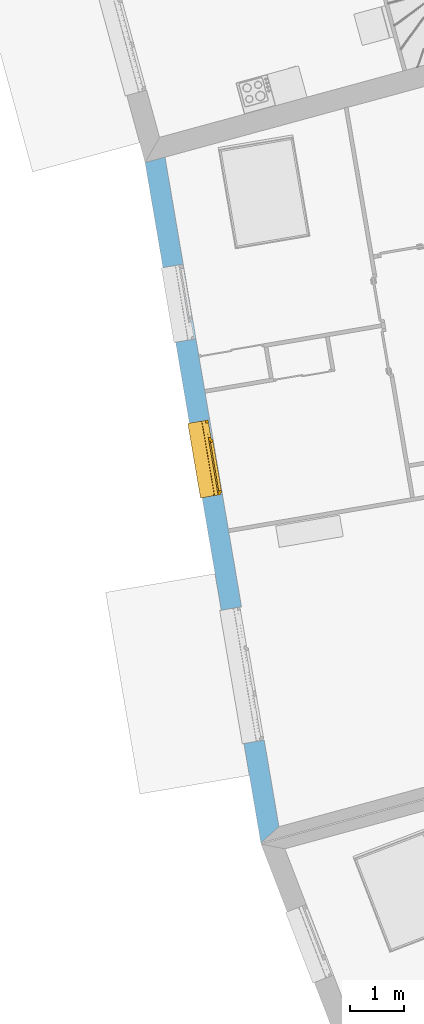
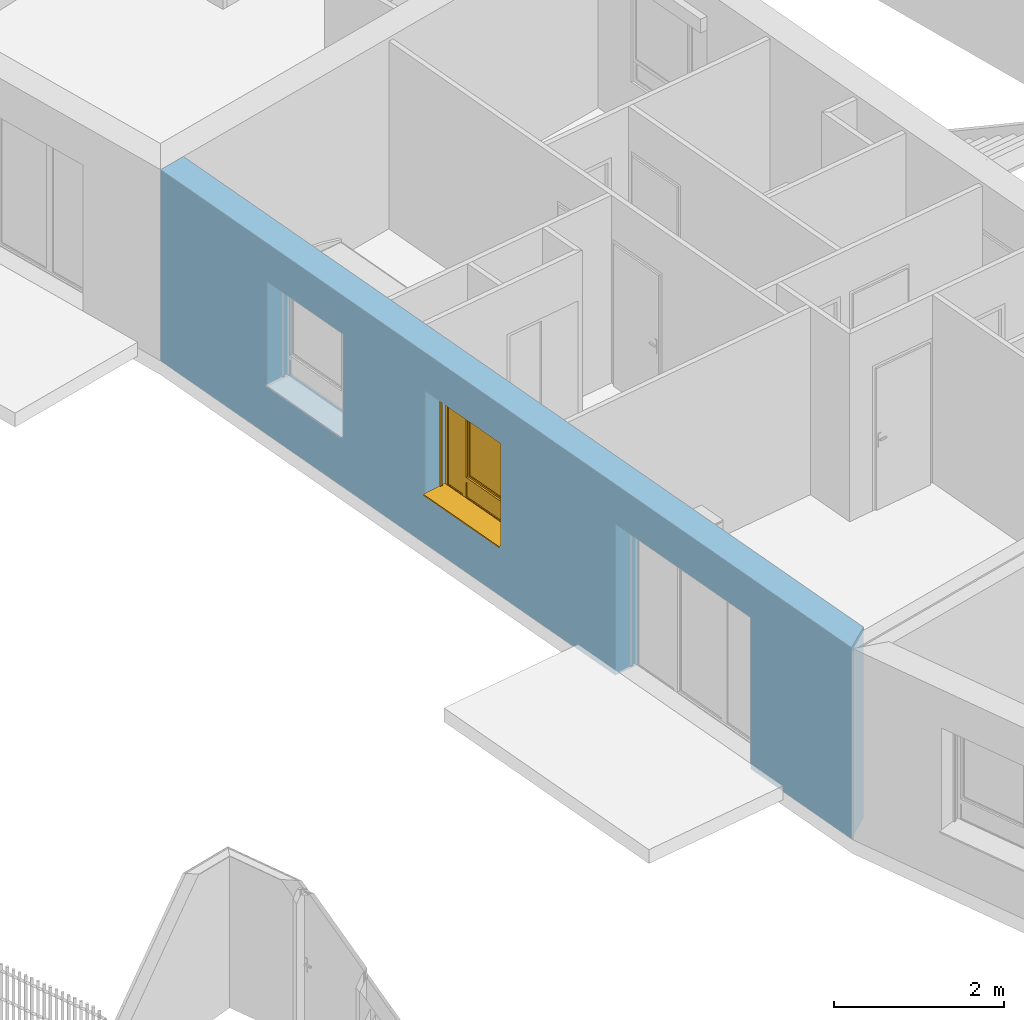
# One storey, part 86 of 195: 1 window, 3 openings, plus 1 element that does not belong to this part.
"""IFC2X3 building model written with IfcOpenShell, lengths in metres."""

import ifcopenshell
import ifcopenshell.guid

model = None  # the IFC model being written
_history = None  # IfcOwnerHistory: only IFC2X3 demands one
_inside = {}  # id of a spatial element -> (the spatial element, [elements in it])
_under = {}  # id of a project, library or spatial element -> (it, [spatial elements below it])
_declared = {}  # id of a project -> (the project, [libraries it declares])
_typed = {}  # id of a type object -> (the type object, [elements of that type])
_made_of = {}  # id of a material, layer set ... -> (it, [elements and type objects made of it])


def new_model(schema):
    """Start an empty IFC model of exactly this schema.

    Asked for "IFC4X3", IfcOpenShell would pick the latest addendum, in which some entities
    have other attributes; the version numbers below select the first issue.
    IFC2X3 requires an IfcOwnerHistory on every rooted entity: one is made here for all.
    """
    global model, _history
    if schema == "IFC4X3":
        model = ifcopenshell.file(schema_version=(4, 3, 0, 0))
    else:
        model = ifcopenshell.file(schema=schema)
    _inside.clear()
    _under.clear()
    _declared.clear()
    _typed.clear()
    _made_of.clear()
    _history = None
    if model.schema == "IFC2X3":
        org = make("IfcOrganization", Name="unknown")
        user = make(
            "IfcPersonAndOrganization",
            ThePerson=make("IfcPerson", FamilyName="unknown"),
            TheOrganization=org,
        )
        app = make(
            "IfcApplication",
            ApplicationDeveloper=org,
            Version="unknown",
            ApplicationFullName="unknown",
            ApplicationIdentifier="unknown",
        )
        _history = make(
            "IfcOwnerHistory",
            OwningUser=user,
            OwningApplication=app,
            ChangeAction="ADDED",
            CreationDate=0,
        )
    return model


def make(cls, **values):
    """One entity of the class cls with the attributes given. An attribute that is None is left unset."""
    return model.create_entity(
        cls, **{name: value for name, value in values.items() if value is not None}
    )


def entity(cls, *values):
    """Any entity or typed value of the class cls, its attributes in the order of the schema. None: left unset."""
    e = model.create_entity(cls)
    for i, value in enumerate(values):
        if value is not None:
            e[i] = value
    return e


def rooted(cls, **values):
    """An entity with a GlobalId (a new one), such as an element, a storey or a relation."""
    return make(cls, GlobalId=ifcopenshell.guid.new(), OwnerHistory=_history, **values)


def si_unit(unit_type, name, prefix=None):
    """IfcSIUnit, for example si_unit("LENGTHUNIT", "METRE", prefix="MILLI")."""
    return make("IfcSIUnit", UnitType=unit_type, Prefix=prefix, Name=name)


def converted_unit(unit_type, name, factor, base, dimensions=None, offset=None):
    """IfcConversionBasedUnit, such as the inch: factor (a typed value) times the base unit."""
    return make(
        "IfcConversionBasedUnit"
        if offset is None
        else "IfcConversionBasedUnitWithOffset",
        ConversionOffset=offset,
        Dimensions=None
        if dimensions is None
        else entity("IfcDimensionalExponents", *dimensions),
        UnitType=unit_type,
        Name=name,
        ConversionFactor=make(
            "IfcMeasureWithUnit", ValueComponent=factor, UnitComponent=base
        ),
    )


def derived_unit(unit_type, elements):
    """IfcDerivedUnit: a product of units, each with its exponent."""
    return make(
        "IfcDerivedUnit",
        Elements=[
            make("IfcDerivedUnitElement", Unit=unit, Exponent=power)
            for unit, power in elements
        ],
        UnitType=unit_type,
    )


def money_unit(currency):
    """IfcMonetaryUnit."""
    return make("IfcMonetaryUnit", Currency=currency)


def assignment(units):
    """IfcUnitAssignment: the units of a project."""
    return None if units is None else make("IfcUnitAssignment", Units=units)


def point(xyz):
    """IfcCartesianPoint."""
    return None if xyz is None else make("IfcCartesianPoint", Coordinates=xyz)


def direction(xyz):
    """IfcDirection."""
    return None if xyz is None else make("IfcDirection", DirectionRatios=xyz)


def frame(location, z_axis=None, x_axis=None):
    """IfcAxis2Placement3D, a coordinate frame: its origin and axes. An axis left out is left unset."""
    return make(
        "IfcAxis2Placement3D",
        Location=point(location),
        Axis=direction(z_axis),
        RefDirection=direction(x_axis),
    )


def origin_with_axes():
    """The frame at (0, 0, 0) with the z axis (0, 0, 1) and the x axis (1, 0, 0) written out."""
    return frame((0.0, 0.0, 0.0), z_axis=(0.0, 0.0, 1.0), x_axis=(1.0, 0.0, 0.0))


def place(relative_to, where):
    """IfcLocalPlacement: puts the frame where relative to a parent placement (None: the world)."""
    return make(
        "IfcLocalPlacement", PlacementRelTo=relative_to, RelativePlacement=where
    )


def context(
    kind, dimensions, precision=None, world=None, true_north=None, identifier=None
):
    """IfcGeometricRepresentationContext, for example the 3D "Model" context."""
    return make(
        "IfcGeometricRepresentationContext",
        ContextIdentifier=identifier,
        ContextType=kind,
        CoordinateSpaceDimension=dimensions,
        Precision=precision,
        WorldCoordinateSystem=world,
        TrueNorth=true_north,
    )


def subcontext(parent, identifier, kind, view, scale=None):
    """IfcGeometricRepresentationSubContext, for example "Body" below "Model"."""
    return make(
        "IfcGeometricRepresentationSubContext",
        ContextIdentifier=identifier,
        ContextType=kind,
        ParentContext=parent,
        TargetScale=scale,
        TargetView=view,
    )


def project(units=None, contexts=None):
    """IfcProject with its units and contexts."""
    return rooted(
        "IfcProject",
        Name="project",
        RepresentationContexts=contexts,
        UnitsInContext=assignment(units),
    )


def spatial(cls, under=None, at=None, **own):
    """A site, building, storey or space (cls), placed at a placement, below another one or the project."""
    s = rooted(cls, ObjectPlacement=at, **own)
    if under is not None:
        _under.setdefault(under.id(), (under, []))[1].append(s)
    return s


def polyline(points):
    """IfcPolyline through the points."""
    return make("IfcPolyline", Points=[point(p) for p in points])


def outline(outer, holes=None, kind="AREA"):
    """IfcArbitraryClosedProfileDef: a profile drawn as a closed curve; with holes, ...WithVoids."""
    if holes is None:
        return make("IfcArbitraryClosedProfileDef", ProfileType=kind, OuterCurve=outer)
    return make(
        "IfcArbitraryProfileDefWithVoids",
        ProfileType=kind,
        OuterCurve=outer,
        InnerCurves=holes,
    )


def extrude(swept, where, along, depth):
    """IfcExtrudedAreaSolid: the profile swept, set in the frame where, extruded along a direction by depth."""
    return make(
        "IfcExtrudedAreaSolid",
        SweptArea=swept,
        Position=where,
        ExtrudedDirection=direction(along),
        Depth=depth,
    )


def faces_of(points, faces, orient=None, outer=None):
    """IfcFace entities. A face is a list of loops; a loop is a list of indices into points, from 0.

    orient and outer hold one flag for each loop. By default every Orientation is true, the
    first loop of a face is its IfcFaceOuterBound and the others are IfcFaceBound.
    """
    made = []
    for i, loops in enumerate(faces):
        bounds = []
        for j, loop in enumerate(loops):
            is_outer = j == 0 if outer is None else outer[i][j]
            bounds.append(
                make(
                    "IfcFaceOuterBound" if is_outer else "IfcFaceBound",
                    Bound=make("IfcPolyLoop", Polygon=[points[k] for k in loop]),
                    Orientation=True if orient is None else orient[i][j],
                )
            )
        made.append(make("IfcFace", Bounds=bounds))
    return made


def open_shell(faces, orient=None, outer=None):
    """The faces of one IfcOpenShell. surface_model builds it on its shared points."""
    return ("IfcOpenShell", faces, orient, outer)


def faceted_brep(points, faces, orient=None, outer=None, voids=None):
    """IfcFacetedBrep: a solid bounded by flat faces; with voids (closed shells), ...WithVoids."""
    shared = [point(p) for p in points]
    hull = make("IfcClosedShell", CfsFaces=faces_of(shared, faces, orient, outer))
    if voids is None:
        return make("IfcFacetedBrep", Outer=hull)
    return make(
        "IfcFacetedBrepWithVoids",
        Outer=hull,
        Voids=[
            make(cls, CfsFaces=faces_of(shared, fs, o, b)) for cls, fs, o, b in voids
        ],
    )


def surface_model(cls, points, shells):
    """IfcFaceBasedSurfaceModel or IfcShellBasedSurfaceModel (cls): surfaces that need not close."""
    shared = [point(p) for p in points]
    made = [make(c, CfsFaces=faces_of(shared, fs, o, b)) for c, fs, o, b in shells]
    if cls == "IfcFaceBasedSurfaceModel":
        return make(cls, FbsmFaces=made)
    return make(cls, SbsmBoundary=made)


def shape(context_of_items, identifier, shape_type, items):
    """IfcShapeRepresentation: the items that make up one representation, for example the "Body"."""
    return make(
        "IfcShapeRepresentation",
        ContextOfItems=context_of_items,
        RepresentationIdentifier=identifier,
        RepresentationType=shape_type,
        Items=items,
    )


def source(mapping_origin, context_of_items, identifier, shape_type, items):
    """IfcRepresentationMap: a shape defined once, which mapped items show again and again."""
    return make(
        "IfcRepresentationMap",
        MappingOrigin=mapping_origin,
        MappedRepresentation=shape(context_of_items, identifier, shape_type, items),
    )


def transform(
    local_origin,
    x_axis=None,
    y_axis=None,
    z_axis=None,
    scale=None,
    scale2=None,
    scale3=None,
    uniform=True,
):
    """IfcCartesianTransformationOperator3D, or its non-uniform kind. x_axis, y_axis, z_axis: its Axis1, 2, 3."""
    if uniform:
        return make(
            "IfcCartesianTransformationOperator3D",
            Axis1=direction(x_axis),
            Axis2=direction(y_axis),
            LocalOrigin=point(local_origin),
            Scale=scale,
            Axis3=direction(z_axis),
        )
    return make(
        "IfcCartesianTransformationOperator3DnonUniform",
        Axis1=direction(x_axis),
        Axis2=direction(y_axis),
        LocalOrigin=point(local_origin),
        Scale=scale,
        Axis3=direction(z_axis),
        Scale2=scale2,
        Scale3=scale3,
    )


def mapped(mapping_source, mapping_target):
    """IfcMappedItem: shows the shape of a source again, moved by a transform."""
    return make(
        "IfcMappedItem", MappingSource=mapping_source, MappingTarget=mapping_target
    )


def material(Name=None, Category=None):
    """IfcMaterial."""
    return make("IfcMaterial", Name=Name, Category=Category)


def layer(
    of_material, thickness, ventilated=None, Name=None, Category=None, Priority=None
):
    """IfcMaterialLayer: one layer of a wall or slab, of a material (None: an air gap)."""
    return make(
        "IfcMaterialLayer",
        Material=of_material,
        LayerThickness=thickness,
        IsVentilated=ventilated,
        Name=Name,
        Category=Category,
        Priority=Priority,
    )


def layer_set(layers, Name=None):
    """IfcMaterialLayerSet."""
    return make("IfcMaterialLayerSet", MaterialLayers=layers, LayerSetName=Name)


def layer_usage(for_layer_set, set_direction, sense, offset, extent=None):
    """IfcMaterialLayerSetUsage: how a layer set lies in its element."""
    return make(
        "IfcMaterialLayerSetUsage",
        ForLayerSet=for_layer_set,
        LayerSetDirection=set_direction,
        DirectionSense=sense,
        OffsetFromReferenceLine=offset,
        ReferenceExtent=extent,
    )


def made_of(thing, what):
    """Note that an element or type object is made of a material, layer set ...; save() writes the relation."""
    if what is not None:
        _made_of.setdefault(what.id(), (what, []))[1].append(thing)
    return thing


def type_object(cls, material=None, **own):
    """A type object (cls), such as IfcWallType, which elements share."""
    return made_of(rooted(cls, **own), material)


def element(
    cls,
    number,
    at=None,
    inside=None,
    cuts=None,
    type_object=None,
    material=None,
    context=None,
    identifier="Body",
    shape_type=None,
    held_by="IfcProductDefinitionShape",
    body=None,
    shapes=None,
    **own,
):
    """One element of the class cls, such as IfcWall. Its Tag is "e" and its number.

    at: its placement. inside: the storey or other place that contains it. cuts: it is an
    opening in that element (IfcRelVoidsElement). A single representation is given by context,
    identifier, shape_type and body (its items); several are given by shapes. held_by: the class
    of the entity that holds the representations. save() writes the other relations.
    """
    e = rooted(cls, Tag="e%d" % number, ObjectPlacement=at, **own)
    if body is not None:
        shapes = [shape(context, identifier, shape_type, body)]
    if shapes is not None:
        e.Representation = make(held_by, Representations=shapes)
    if inside is not None:
        _inside.setdefault(inside.id(), (inside, []))[1].append(e)
    if cuts is not None:
        rooted(
            "IfcRelVoidsElement", RelatingBuildingElement=cuts, RelatedOpeningElement=e
        )
    if type_object is not None:
        _typed.setdefault(type_object.id(), (type_object, []))[1].append(e)
    return made_of(e, material)


def fill(opening, filler):
    """IfcRelFillsElement: the door or window that sits in an opening."""
    return rooted(
        "IfcRelFillsElement",
        RelatingOpeningElement=opening,
        RelatedBuildingElement=filler,
    )


def aggregate(whole, parts):
    """IfcRelAggregates: a whole, such as a stair, and the parts it consists of."""
    return rooted("IfcRelAggregates", RelatingObject=whole, RelatedObjects=parts)


def save(model, path):
    """Write the relations noted so far, then the file.

    IfcRelAggregates (storeys below a building ...), IfcRelContainedInSpatialStructure (elements
    in a storey), IfcRelDefinesByType, IfcRelAssociatesMaterial and IfcRelDeclares: one each for
    every whole, place, type object, material and project.
    """
    for whole, parts in _under.values():
        aggregate(whole, parts)
    for where, things in _inside.values():
        rooted(
            "IfcRelContainedInSpatialStructure",
            RelatedElements=things,
            RelatingStructure=where,
        )
    for kind, things in _typed.values():
        rooted("IfcRelDefinesByType", RelatedObjects=things, RelatingType=kind)
    for what, things in _made_of.values():
        rooted("IfcRelAssociatesMaterial", RelatedObjects=things, RelatingMaterial=what)
    for by, libraries in _declared.values():
        rooted("IfcRelDeclares", RelatingContext=by, RelatedDefinitions=libraries)
    model.write(path)


model = new_model("IFC2X3")

# Units and contexts
model_context = context("Model", 3, precision=1e-05, world=origin_with_axes(), true_north=direction((0.0, 1.0)))
body_context = subcontext(model_context, "Body", "Model", "MODEL_VIEW")
ifc_project = project(units=[si_unit("LENGTHUNIT", "METRE"), si_unit("AREAUNIT", "SQUARE_METRE"), si_unit("VOLUMEUNIT", "CUBIC_METRE"), converted_unit("PLANEANGLEUNIT", "DEGREE", entity("IfcPlaneAngleMeasure", 0.0174532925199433), si_unit("PLANEANGLEUNIT", "RADIAN"), dimensions=[0, 0, 0, 0, 0, 0, 0]), money_unit("CHF"), converted_unit("TIMEUNIT", "Year", entity("IfcTimeMeasure", 31557600.0), si_unit("TIMEUNIT", "SECOND"), dimensions=[0, 0, 1, 0, 0, 0, 0]), si_unit("MASSUNIT", "GRAM", prefix="KILO"), si_unit("THERMODYNAMICTEMPERATUREUNIT", "DEGREE_CELSIUS"), si_unit("LUMINOUSINTENSITYUNIT", "LUMEN"), si_unit("ENERGYUNIT", "JOULE", prefix="MEGA"), derived_unit("THERMALCONDUCTANCEUNIT", [(si_unit("POWERUNIT", "WATT"), 1), (si_unit("LENGTHUNIT", "METRE"), -1), (si_unit("THERMODYNAMICTEMPERATUREUNIT", "KELVIN"), -1)]), derived_unit("SPECIFICHEATCAPACITYUNIT", [(si_unit("ENERGYUNIT", "JOULE"), 1), (si_unit("MASSUNIT", "GRAM", prefix="KILO"), -1), (si_unit("THERMODYNAMICTEMPERATUREUNIT", "KELVIN"), -1)]), derived_unit("MASSDENSITYUNIT", [(si_unit("MASSUNIT", "GRAM", prefix="KILO"), 1), (si_unit("VOLUMEUNIT", "CUBIC_METRE"), -1)])], contexts=[model_context])

# Site, building, storey
site_placement = place(None, origin_with_axes())
site = spatial("IfcSite", under=ifc_project, at=site_placement, Name="Site", CompositionType="ELEMENT")
building_placement = place(site_placement, origin_with_axes())
building = spatial("IfcBuilding", under=site, at=building_placement, Name="Bâtiment", CompositionType="ELEMENT")
storey_placement = place(building_placement, origin_with_axes())
storey = spatial("IfcBuildingStorey", under=building, at=storey_placement, Name="rdc", CompositionType="ELEMENT", Elevation=0.0)

# Wall, openings, window
ifc_material_1 = material(Name="Parpaing 312445824")
ifc_layer_1 = layer(ifc_material_1, 0.22, ventilated="UNKNOWN")
ifc_material_2 = material(Name="Isolant styromousse 301821074")
ifc_layer_2 = layer(ifc_material_2, 0.16, ventilated="UNKNOWN")
ifc_layer_set = layer_set([ifc_layer_1, ifc_layer_2], Name="isol int 22+16 0836643197")
ifc_layer_usage = layer_usage(ifc_layer_set, "AXIS2", "POSITIVE", 0.0)
wall_type = type_object("IfcWallType", Name="isol int 22+16 0836643197 380", PredefinedType="NOTDEFINED")
wall_placement = place(storey_placement, frame((9579.83220776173, -1023.042735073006, 57.7), z_axis=(0.0, 0.0, 1.0), x_axis=(0.1677527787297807, -0.985829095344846, 0.0)))
wall = element("IfcWallStandardCase", 1, at=wall_placement, inside=storey, type_object=wall_type, material=ifc_layer_usage, Name="Mur-113", context=body_context, shape_type="SweptSolid", body=[
    extrude(outline(polyline([(0.0, 0.0), (12.75935139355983, 0.0), (12.52130775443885, 0.3799999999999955), (-0.03709306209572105, 0.3799999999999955), (0.0, 0.0)])), origin_with_axes(), (0.0, 0.0, 1.0), 2.75),
])
opening_1_placement = place(wall_placement, frame((2.669998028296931, 0.0, 0.7000000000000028), z_axis=(0.0, 0.0, 1.0), x_axis=(1.0, 0.0, 0.0)))
element("IfcOpeningElement", 2, at=opening_1_placement, cuts=wall, Name="Fen-045", context=body_context, shape_type="Brep", body=[
    faceted_brep([(-0.6999999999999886, 0.4799999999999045, 1.5), (0.6999999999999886, 0.4799999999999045, 1.5), (0.700000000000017, 2.491085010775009, 1.5), (-0.6999999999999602, 2.491085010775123, 1.5), (-0.6999999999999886, 0.4799999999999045, 1.700000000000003), (0.6999999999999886, 0.4799999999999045, 1.700000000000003), (0.6999999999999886, 0.2999999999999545, 1.5), (0.700000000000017, 0.2999999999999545, 0.0), (0.700000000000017, 2.491085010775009, 0.0), (-0.6999999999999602, 2.491085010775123, 0.0), (-0.6999999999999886, 0.3000000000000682, 1.5), (-0.6999999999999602, 0.3000000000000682, 0.0), (-0.700000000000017, 0.2199999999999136, 1.5), (-0.700000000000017, 0.2199999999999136, 1.700000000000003), (0.6999999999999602, 0.2199999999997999, 1.700000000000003), (0.6999999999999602, 0.2199999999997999, 1.5), (0.6999999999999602, -2.111085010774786, 1.5), (0.6999999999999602, -2.111085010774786, 0.0), (-0.700000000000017, -2.111085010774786, 0.0), (-0.700000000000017, -2.111085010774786, 1.5)], [[[0, 1, 2, 3]], [[1, 0, 4, 5]], [[1, 6, 7, 8, 2]], [[2, 8, 9, 3]], [[10, 0, 3, 9, 11]], [[0, 10, 12, 13, 4]], [[14, 5, 4, 13]], [[6, 1, 5, 14, 15]], [[6, 15, 16, 17, 7]], [[7, 11, 9, 8]], [[12, 10, 11, 18, 19]], [[12, 15, 14, 13]], [[15, 12, 19, 16]], [[19, 18, 17, 16]], [[11, 7, 17, 18]]]),
])
opening_2_placement = place(wall_placement, frame((5.5873425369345, 0.0, 0.7000000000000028), z_axis=(0.0, 0.0, 1.0), x_axis=(1.0, 0.0, 0.0)))
opening_2 = element("IfcOpeningElement", 3, at=opening_2_placement, cuts=wall, Name="Fen-045", context=body_context, shape_type="Brep", body=[
    faceted_brep([(-0.6999999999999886, 0.4800000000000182, 1.5), (0.6999999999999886, 0.4800000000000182, 1.5), (0.6999999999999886, 2.491085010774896, 1.5), (-0.700000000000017, 2.491085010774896, 1.5), (-0.6999999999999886, 0.4800000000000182, 1.700000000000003), (0.6999999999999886, 0.4800000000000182, 1.700000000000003), (0.6999999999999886, 0.2999999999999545, 1.5), (0.6999999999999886, 0.2999999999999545, 0.0), (0.6999999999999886, 2.491085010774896, 0.0), (-0.700000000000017, 2.491085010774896, 0.0), (-0.6999999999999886, 0.3000000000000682, 1.5), (-0.6999999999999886, 0.3000000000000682, 0.0), (-0.6999999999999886, 0.2200000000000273, 1.5), (-0.6999999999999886, 0.2200000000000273, 1.700000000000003), (0.6999999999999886, 0.2199999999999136, 1.700000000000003), (0.6999999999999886, 0.2199999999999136, 1.5), (0.6999999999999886, -2.111085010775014, 1.5), (0.6999999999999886, -2.111085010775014, 0.0), (-0.7000000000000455, -2.1110850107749, 0.0), (-0.7000000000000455, -2.1110850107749, 1.5)], [[[0, 1, 2, 3]], [[1, 0, 4, 5]], [[1, 6, 7, 8, 2]], [[2, 8, 9, 3]], [[10, 0, 3, 9, 11]], [[0, 10, 12, 13, 4]], [[4, 13, 14, 5]], [[6, 1, 5, 14, 15]], [[6, 15, 16, 17, 7]], [[7, 11, 9, 8]], [[12, 10, 11, 18, 19]], [[12, 15, 14, 13]], [[15, 12, 19, 16]], [[19, 18, 17, 16]], [[11, 7, 17, 18]]]),
])
opening_3_placement = place(wall_placement, frame((9.646856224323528, 0.0, 0.0), z_axis=(0.0, 0.0, 1.0), x_axis=(1.0, 0.0, 0.0)))
element("IfcOpeningElement", 4, at=opening_3_placement, cuts=wall, Name="Fen-045", context=body_context, shape_type="Brep", body=[
    faceted_brep([(-1.25, 0.4799999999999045, 2.18), (1.250000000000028, 0.4799999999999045, 2.18), (1.250000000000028, 2.491085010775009, 2.18), (-1.25, 2.491085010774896, 2.18), (-1.25, 0.4799999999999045, 2.380000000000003), (1.250000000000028, 0.4799999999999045, 2.380000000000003), (1.25, 0.3000000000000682, 2.18), (1.25, 0.3000000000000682, 0.0), (1.250000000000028, 2.491085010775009, 0.0), (-1.25, 2.491085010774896, 0.0), (-1.249999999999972, 0.2999999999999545, 2.18), (-1.249999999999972, 0.2999999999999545, 0.0), (-1.25, 0.2199999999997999, 2.18), (-1.25, 0.2199999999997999, 2.380000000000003), (1.25, 0.2199999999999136, 2.380000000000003), (1.25, 0.2199999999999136, 2.18), (1.25, -2.111085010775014, 2.18), (1.25, -2.111085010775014, 0.0), (-1.249999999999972, -2.111085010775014, 0.0), (-1.249999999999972, -2.111085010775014, 2.18)], [[[0, 1, 2, 3]], [[1, 0, 4, 5]], [[1, 6, 7, 8, 2]], [[2, 8, 9, 3]], [[10, 0, 3, 9, 11]], [[0, 10, 12, 13, 4]], [[4, 13, 14, 5]], [[6, 1, 5, 14, 15]], [[6, 15, 16, 17, 7]], [[7, 11, 9, 8]], [[12, 10, 11, 18, 19]], [[12, 15, 14, 13]], [[15, 12, 19, 16]], [[19, 18, 17, 16]], [[11, 7, 17, 18]]]),
])
window_style = type_object("IfcWindowStyle", Name="Fenêtre variable 27", ConstructionType="NOTDEFINED", OperationType="TRIPLE_PANEL_LEFT", ParameterTakesPrecedence=False, Sizeable=False)
shared_shape = source(origin_with_axes(), body_context, "Body", "SurfaceModel", [
    surface_model("IfcShellBasedSurfaceModel", [(0.7, -0.05100000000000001, 0.05), (-0.7, -0.05100000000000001, 0.05000000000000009), (-0.7, -0.05100000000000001, 0.04000000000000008), (0.7, -0.05100000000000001, 0.04), (-0.7, -0.3799999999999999, 0.02900000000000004), (0.7, -0.3799999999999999, 0.02899999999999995), (-0.7, -0.3799999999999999, 0.00900000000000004), (0.7, -0.3799999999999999, 0.008999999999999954), (-0.7, -0.3699999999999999, 0.01900000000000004), (0.7, -0.3699999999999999, 0.01899999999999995)], [open_shell([[[0, 1, 2, 3]], [[3, 2, 4, 5]], [[5, 4, 6, 7]], [[7, 6, 8, 9]]])]),
    faceted_brep([(0.7, -0.13, 1.7), (0.7, 0.13, 1.7), (0.697, 0.13, 1.7), (0.697, -0.13, 1.7), (0.7, -0.13, 1.5), (0.7, 0.13, 1.5), (0.697, 0.13, 1.5), (0.697, -0.13, 1.5)], [[[0, 1, 2, 3]], [[0, 4, 5, 1]], [[1, 5, 6, 2]], [[3, 2, 6, 7]], [[4, 0, 3, 7]], [[5, 4, 7, 6]]]),
    faceted_brep([(-0.6970000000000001, -0.1299999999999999, 1.7), (-0.6970000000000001, 0.1300000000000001, 1.7), (-0.7000000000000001, 0.1300000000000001, 1.7), (-0.7000000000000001, -0.1299999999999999, 1.7), (-0.6970000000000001, -0.1299999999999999, 1.5), (-0.6970000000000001, 0.1300000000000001, 1.5), (-0.7000000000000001, 0.1300000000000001, 1.5), (-0.7000000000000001, -0.1299999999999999, 1.5)], [[[0, 1, 2, 3]], [[0, 4, 5, 1]], [[1, 5, 6, 2]], [[3, 2, 6, 7]], [[4, 0, 3, 7]], [[5, 4, 7, 6]]]),
    faceted_brep([(0.697, -0.13, 1.5), (0.697, -0.13, 1.7), (-0.697, -0.1299999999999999, 1.7), (-0.697, -0.1299999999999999, 1.5), (0.697, -0.127, 1.5), (0.697, -0.127, 1.697), (0.697, 0.127, 1.697), (0.697, 0.127, 1.503), (0.697, -0.108, 1.503), (0.697, -0.108, 1.5), (0.697, 0.13, 1.5), (0.697, 0.13, 1.7), (-0.697, 0.1300000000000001, 1.7), (-0.697, 0.1300000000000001, 1.5), (-0.697, -0.1079999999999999, 1.5), (-0.697, -0.1079999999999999, 1.503), (-0.697, 0.1270000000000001, 1.503), (-0.697, 0.1270000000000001, 1.697), (-0.697, -0.1269999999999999, 1.697), (-0.697, -0.1269999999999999, 1.5)], [[[0, 1, 2, 3]], [[0, 4, 5, 6, 7, 8, 9, 10, 11, 1]], [[1, 11, 12, 2]], [[3, 2, 12, 13, 14, 15, 16, 17, 18, 19]], [[4, 0, 3, 19]], [[5, 4, 19, 18]], [[6, 5, 18, 17]], [[7, 6, 17, 16]], [[8, 7, 16, 15]], [[9, 8, 15, 14]], [[10, 9, 14, 13]], [[11, 10, 13, 12]]]),
    faceted_brep([(0.694, -0.08075423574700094, 1.585760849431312), (0.694, -0.07705479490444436, 1.571954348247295), (0.694, -0.07101408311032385, 1.559), (0.694, -0.06281564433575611, 1.547291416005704), (0.694, -0.05270858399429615, 1.537184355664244), (0.694, -0.04099999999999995, 1.528985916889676), (0.694, -0.02804565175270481, 1.522945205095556), (0.694, -0.01423915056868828, 1.519245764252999), (0.694, 0.0, 1.518), (0.694, 0.01423915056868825, 1.519245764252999), (0.694, 0.02804565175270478, 1.522945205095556), (0.694, 0.04099999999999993, 1.528985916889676), (0.694, 0.05270858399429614, 1.537184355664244), (0.694, 0.06281564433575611, 1.547291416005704), (0.694, 0.07101408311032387, 1.559), (0.694, 0.07705479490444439, 1.571954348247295), (0.694, 0.08075423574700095, 1.585760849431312), (0.694, 0.0819999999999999, 1.6), (0.694, 0.08075423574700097, 1.614239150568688), (0.694, 0.0770547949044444, 1.628045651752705), (0.694, 0.07101408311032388, 1.641), (0.694, 0.06281564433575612, 1.652708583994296), (0.694, 0.05270858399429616, 1.662815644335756), (0.694, 0.04099999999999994, 1.671014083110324), (0.694, 0.02804565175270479, 1.677054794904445), (0.694, 0.01423915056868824, 1.680754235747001), (0.694, 0.0, 1.682), (0.694, -0.01423915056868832, 1.680754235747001), (0.694, -0.02804565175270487, 1.677054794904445), (0.694, -0.04100000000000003, 1.671014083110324), (0.694, -0.05270858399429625, 1.662815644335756), (0.694, -0.06281564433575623, 1.652708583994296), (0.694, -0.07101408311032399, 1.641), (0.694, -0.07705479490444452, 1.628045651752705), (0.694, -0.0807542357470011, 1.614239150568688), (0.694, -0.08200000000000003, 1.6), (-0.694, -0.08075423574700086, 1.585760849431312), (-0.694, -0.07705479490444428, 1.571954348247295), (-0.694, -0.07101408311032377, 1.559), (-0.694, -0.06281564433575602, 1.547291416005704), (-0.694, -0.05270858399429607, 1.537184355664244), (-0.694, -0.04099999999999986, 1.528985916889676), (-0.694, -0.02804565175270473, 1.522945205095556), (-0.694, -0.0142391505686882, 1.519245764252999), (-0.694, 0.0, 1.518), (-0.694, 0.01423915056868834, 1.519245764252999), (-0.694, 0.02804565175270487, 1.522945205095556), (-0.694, 0.04100000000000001, 1.528985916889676), (-0.694, 0.05270858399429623, 1.537184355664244), (-0.694, 0.06281564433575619, 1.547291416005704), (-0.694, 0.07101408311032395, 1.559), (-0.694, 0.07705479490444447, 1.571954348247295), (-0.694, 0.08075423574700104, 1.585760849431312), (-0.694, 0.08199999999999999, 1.6), (-0.694, 0.08075423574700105, 1.614239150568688), (-0.694, 0.07705479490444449, 1.628045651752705), (-0.694, 0.07101408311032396, 1.641), (-0.694, 0.0628156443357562, 1.652708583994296), (-0.694, 0.05270858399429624, 1.662815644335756), (-0.694, 0.04100000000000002, 1.671014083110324), (-0.694, 0.02804565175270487, 1.677054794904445), (-0.694, 0.01423915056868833, 1.680754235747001), (-0.694, 0.0, 1.682), (-0.694, -0.01423915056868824, 1.680754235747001), (-0.694, -0.02804565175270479, 1.677054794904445), (-0.694, -0.04099999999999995, 1.671014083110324), (-0.694, -0.05270858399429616, 1.662815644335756), (-0.694, -0.06281564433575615, 1.652708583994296), (-0.694, -0.07101408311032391, 1.641), (-0.694, -0.07705479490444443, 1.628045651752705), (-0.694, -0.08075423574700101, 1.614239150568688), (-0.694, -0.08199999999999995, 1.6)], [[[0, 1, 2, 3, 4, 5, 6, 7, 8, 9, 10, 11, 12, 13, 14, 15, 16, 17, 18, 19, 20, 21, 22, 23, 24, 25, 26, 27, 28, 29, 30, 31, 32, 33, 34, 35]], [[1, 0, 36, 37]], [[2, 1, 37, 38]], [[3, 2, 38, 39]], [[4, 3, 39, 40]], [[5, 4, 40, 41]], [[6, 5, 41, 42]], [[7, 6, 42, 43]], [[8, 7, 43, 44]], [[9, 8, 44, 45]], [[10, 9, 45, 46]], [[11, 10, 46, 47]], [[12, 11, 47, 48]], [[13, 12, 48, 49]], [[14, 13, 49, 50]], [[15, 14, 50, 51]], [[16, 15, 51, 52]], [[17, 16, 52, 53]], [[18, 17, 53, 54]], [[19, 18, 54, 55]], [[20, 19, 55, 56]], [[21, 20, 56, 57]], [[22, 21, 57, 58]], [[23, 22, 58, 59]], [[24, 23, 59, 60]], [[25, 24, 60, 61]], [[26, 25, 61, 62]], [[27, 26, 62, 63]], [[28, 27, 63, 64]], [[29, 28, 64, 65]], [[30, 29, 65, 66]], [[31, 30, 66, 67]], [[32, 31, 67, 68]], [[33, 32, 68, 69]], [[34, 33, 69, 70]], [[35, 34, 70, 71]], [[0, 35, 71, 36]], [[36, 71, 70, 69, 68, 67, 66, 65, 64, 63, 62, 61, 60, 59, 58, 57, 56, 55, 54, 53, 52, 51, 50, 49, 48, 47, 46, 45, 44, 43, 42, 41, 40, 39, 38, 37]]]),
    faceted_brep([(-0.7, -0.105, 0.03), (-0.7, -0.13, 0.03), (-0.7, -0.1299999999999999, 1.5), (-0.7, -0.1049999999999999, 1.5), (-0.6749999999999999, -0.105, 0.03), (-0.6749999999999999, -0.108, 0.03), (-0.697, -0.108, 0.03), (-0.697, -0.127, 0.03), (-0.6749999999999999, -0.127, 0.03), (-0.6749999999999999, -0.13, 0.03), (-0.6749999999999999, -0.1299999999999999, 1.5), (-0.6749999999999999, -0.1269999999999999, 1.5), (-0.697, -0.1269999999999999, 1.5), (-0.697, -0.1079999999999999, 1.5), (-0.6749999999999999, -0.1079999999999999, 1.5), (-0.6749999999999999, -0.1049999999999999, 1.5)], [[[0, 1, 2, 3]], [[0, 4, 5, 6, 7, 8, 9, 1]], [[1, 9, 10, 2]], [[3, 2, 10, 11, 12, 13, 14, 15]], [[4, 0, 3, 15]], [[5, 4, 15, 14]], [[6, 5, 14, 13]], [[7, 6, 13, 12]], [[8, 7, 12, 11]], [[9, 8, 11, 10]]]),
    faceted_brep([(0.7, -0.105, 0.03), (0.7, -0.1049999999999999, 1.5), (0.7, -0.1299999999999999, 1.5), (0.7, -0.13, 0.03), (0.6749999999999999, -0.105, 0.03), (0.6749999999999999, -0.1049999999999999, 1.5), (0.6749999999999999, -0.1079999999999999, 1.5), (0.697, -0.1079999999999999, 1.5), (0.697, -0.1269999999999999, 1.5), (0.6749999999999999, -0.1269999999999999, 1.5), (0.6749999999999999, -0.1299999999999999, 1.5), (0.6749999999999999, -0.13, 0.03), (0.6749999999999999, -0.127, 0.03), (0.697, -0.127, 0.03), (0.697, -0.108, 0.03), (0.6749999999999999, -0.108, 0.03)], [[[0, 1, 2, 3]], [[4, 5, 1, 0]], [[1, 5, 6, 7, 8, 9, 10, 2]], [[3, 2, 10, 11]], [[0, 3, 11, 12, 13, 14, 15, 4]], [[15, 6, 5, 4]], [[14, 7, 6, 15]], [[13, 8, 7, 14]], [[12, 9, 8, 13]], [[11, 10, 9, 12]]]),
    surface_model("IfcShellBasedSurfaceModel", [(0.697, -0.115, 1.6), (-0.697, -0.1149999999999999, 1.6), (-0.697, -0.12, 1.6), (0.697, -0.12, 1.6), (0.697, -0.115, 1.6), (0.697, -0.12, 1.6), (-0.697, -0.1199999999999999, 1.6), (-0.697, -0.1149999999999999, 1.6)], [open_shell([[[0, 1, 2, 3]], [[4, 5, 6, 7]]])]),
    faceted_brep([(0.697, -0.115, 1.6), (0.697, -0.1166666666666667, 1.583333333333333), (-0.697, -0.1166666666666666, 1.583333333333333), (-0.697, -0.1149999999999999, 1.6), (0.697, -0.12, 1.6), (0.697, -0.1216666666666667, 1.583333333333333), (0.697, -0.1216666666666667, 1.566666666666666), (0.697, -0.12, 1.55), (0.697, -0.115, 1.55), (0.697, -0.1166666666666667, 1.566666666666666), (-0.697, -0.1166666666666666, 1.566666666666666), (-0.697, -0.1149999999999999, 1.55), (-0.697, -0.1199999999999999, 1.55), (-0.697, -0.1216666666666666, 1.566666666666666), (-0.697, -0.1216666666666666, 1.583333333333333), (-0.697, -0.1199999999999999, 1.6)], [[[0, 1, 2, 3]], [[0, 4, 5, 6, 7, 8, 9, 1]], [[1, 9, 10, 2]], [[3, 2, 10, 11, 12, 13, 14, 15]], [[4, 0, 3, 15]], [[5, 4, 15, 14]], [[6, 5, 14, 13]], [[7, 6, 13, 12]], [[8, 7, 12, 11]], [[9, 8, 11, 10]]]),
    faceted_brep([(0.697, -0.115, 1.55), (0.697, -0.1166666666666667, 1.533333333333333), (-0.697, -0.1166666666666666, 1.533333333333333), (-0.697, -0.1149999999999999, 1.55), (0.697, -0.12, 1.55), (0.697, -0.1216666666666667, 1.533333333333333), (0.697, -0.1216666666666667, 1.516666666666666), (0.697, -0.12, 1.5), (0.697, -0.115, 1.5), (0.697, -0.1166666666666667, 1.516666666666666), (-0.697, -0.1166666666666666, 1.516666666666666), (-0.697, -0.1149999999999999, 1.5), (-0.697, -0.1199999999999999, 1.5), (-0.697, -0.1216666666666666, 1.516666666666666), (-0.697, -0.1216666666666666, 1.533333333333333), (-0.697, -0.1199999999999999, 1.55)], [[[0, 1, 2, 3]], [[0, 4, 5, 6, 7, 8, 9, 1]], [[1, 9, 10, 2]], [[3, 2, 10, 11, 12, 13, 14, 15]], [[4, 0, 3, 15]], [[5, 4, 15, 14]], [[6, 5, 14, 13]], [[7, 6, 13, 12]], [[8, 7, 12, 11]], [[9, 8, 11, 10]]]),
    faceted_brep([(0.6749999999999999, 0.0, 1.45), (0.6749999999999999, -0.02500000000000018, 1.45), (0.6499999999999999, -0.02500000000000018, 1.45), (0.6499999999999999, -0.05000000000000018, 1.45), (0.7, -0.05000000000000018, 1.45), (0.7, 0.0, 1.45), (0.6749999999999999, 0.0, 0.3099999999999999), (0.6749999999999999, -0.02500000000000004, 0.3099999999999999), (0.6499999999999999, -0.02500000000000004, 0.335), (0.6499999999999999, -0.02500000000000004, 0.3099999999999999), (0.6499999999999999, -0.05000000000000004, 0.335), (0.6499999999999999, -0.05000000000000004, 0.265), (0.6499999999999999, -0.05000000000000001, 0.05000000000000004), (0.7, -0.05000000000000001, 0.05000000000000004), (0.7, 0.0, 0.05000000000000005), (0.6499999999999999, 0.0, 0.05000000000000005), (0.6499999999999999, 0.0, 0.265), (0.6499999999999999, 0.0, 0.3099999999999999)], [[[0, 1, 2, 3, 4, 5]], [[1, 0, 6, 7]], [[8, 2, 1, 7, 9]], [[2, 8, 10, 3]], [[10, 11, 12, 13, 4, 3]], [[5, 4, 13, 14]], [[6, 0, 5, 14, 15, 16, 17]], [[6, 17, 9, 7]], [[9, 17, 16, 11, 10, 8]], [[15, 12, 11, 16]], [[14, 13, 12, 15]]]),
    faceted_brep([(-0.3068894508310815, -0.02500000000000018, 1.45), (-0.3318894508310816, -0.02500000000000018, 1.45), (-0.3318894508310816, 0.0, 1.45), (-0.3768894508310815, 0.0, 1.45), (-0.3768894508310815, -0.05000000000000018, 1.45), (-0.3068894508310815, -0.05000000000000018, 1.45), (-0.3068894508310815, -0.02500000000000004, 0.335), (-0.3068894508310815, -0.02500000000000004, 0.3099999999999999), (-0.3318894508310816, -0.02500000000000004, 0.3099999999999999), (-0.3318894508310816, 0.0, 0.3099999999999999), (-0.3068894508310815, 0.0, 0.3099999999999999), (-0.3068894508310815, 0.0, 0.265), (-0.3068894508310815, 0.0, 0.05000000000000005), (-0.3768894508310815, 0.0, 0.05000000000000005), (-0.3768894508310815, -0.05000000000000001, 0.05000000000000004), (-0.3068894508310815, -0.05000000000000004, 0.265), (-0.3068894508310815, -0.05000000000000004, 0.335), (-0.3068894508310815, -0.05000000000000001, 0.05000000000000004)], [[[0, 1, 2, 3, 4, 5]], [[1, 0, 6, 7, 8]], [[9, 2, 1, 8]], [[9, 10, 11, 12, 13, 3, 2]], [[13, 14, 4, 3]], [[15, 16, 5, 4, 14, 17]], [[6, 0, 5, 16]], [[7, 6, 16, 15, 11, 10]], [[10, 9, 8, 7]], [[11, 15, 17, 12]], [[12, 17, 14, 13]]]),
    faceted_brep([(0.6499999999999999, -0.02500000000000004, 0.335), (-0.3068894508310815, -0.02500000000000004, 0.335), (-0.3068894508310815, -0.05000000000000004, 0.335), (0.6499999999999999, -0.05000000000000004, 0.335), (-0.3068894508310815, -0.02500000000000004, 0.3099999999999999), (0.6499999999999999, -0.02500000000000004, 0.3099999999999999), (-0.3068894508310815, 0.0, 0.3099999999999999), (-0.3068894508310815, 0.0, 0.265), (-0.3068894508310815, -0.05000000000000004, 0.265), (0.6499999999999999, -0.05000000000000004, 0.265), (0.6499999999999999, 0.0, 0.265), (0.6499999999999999, 0.0, 0.3099999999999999)], [[[0, 1, 2, 3]], [[4, 1, 0, 5]], [[4, 6, 7, 8, 2, 1]], [[2, 8, 9, 3]], [[5, 0, 3, 9, 10, 11]], [[11, 6, 4, 5]], [[6, 11, 10, 7]], [[10, 9, 8, 7]]]),
    faceted_brep([(0.6749999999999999, 0.0, 1.45), (0.6749999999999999, 0.0, 1.475), (-0.3318894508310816, 0.0, 1.475), (-0.3318894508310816, 0.0, 1.45), (-0.3768894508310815, 0.0, 1.45), (-0.6499999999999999, 0.0, 1.45), (-0.7, 0.0, 1.45), (-0.7, 0.0, 1.5), (0.7, 0.0, 1.5), (0.7, 0.0, 1.45), (0.6749999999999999, -0.02500000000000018, 1.45), (0.6749999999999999, -0.02500000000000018, 1.475), (-0.3318894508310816, -0.02500000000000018, 1.475), (-0.3318894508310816, -0.02500000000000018, 1.45), (-0.3068894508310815, -0.02500000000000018, 1.45), (-0.3068894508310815, -0.05000000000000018, 1.45), (-0.3768894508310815, -0.05000000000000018, 1.45), (-0.6499999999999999, -0.05000000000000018, 1.45), (-0.7, -0.05000000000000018, 1.45), (-0.7, -0.05000000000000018, 1.5), (0.7, -0.05000000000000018, 1.5), (0.7, -0.05000000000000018, 1.45), (0.6499999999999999, -0.05000000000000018, 1.45), (0.6499999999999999, -0.02500000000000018, 1.45)], [[[0, 1, 2, 3, 4, 5, 6, 7, 8, 9]], [[1, 0, 10, 11]], [[2, 1, 11, 12]], [[3, 2, 12, 13]], [[13, 14, 15, 16, 4, 3]], [[4, 16, 17, 5]], [[5, 17, 18, 6]], [[6, 18, 19, 7]], [[7, 19, 20, 8]], [[8, 20, 21, 9]], [[10, 0, 9, 21, 22, 23]], [[14, 13, 12, 11, 10, 23]], [[14, 23, 22, 15]], [[16, 15, 22, 21, 20, 19, 18, 17]]]),
    faceted_brep([(-0.6499999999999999, -0.05000000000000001, 0.05), (-0.7, -0.05000000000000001, 0.05), (-0.7, 0.0, 0.05000000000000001), (-0.6499999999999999, 0.0, 0.05000000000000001), (-0.6499999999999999, -0.05000000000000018, 1.45), (-0.7, -0.05000000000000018, 1.45), (-0.7, 0.0, 1.45), (-0.6499999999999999, 0.0, 1.45)], [[[0, 1, 2, 3]], [[0, 4, 5, 1]], [[1, 5, 6, 2]], [[3, 2, 6, 7]], [[4, 0, 3, 7]], [[5, 4, 7, 6]]]),
    faceted_brep([(0.6499999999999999, -0.05000000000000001, 0.05), (0.7, -0.05000000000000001, 0.05), (0.7, 0.0, 0.05000000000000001), (0.6499999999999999, 0.0, 0.05000000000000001), (-0.3068894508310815, -0.05000000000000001, 0.05), (-0.3768894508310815, -0.05000000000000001, 0.05), (-0.6499999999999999, -0.05000000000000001, 0.05), (-0.7, -0.05000000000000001, 0.05), (-0.7, -0.05, 0.0), (0.7, -0.05, 0.0), (0.7, 0.0, 0.0), (-0.7, 0.0, 0.0), (-0.7, 0.0, 0.05000000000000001), (-0.6499999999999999, 0.0, 0.05000000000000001), (-0.3768894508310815, 0.0, 0.05000000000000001), (-0.3068894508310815, 0.0, 0.05000000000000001)], [[[0, 1, 2, 3]], [[0, 4, 5, 6, 7, 8, 9, 1]], [[1, 9, 10, 2]], [[3, 2, 10, 11, 12, 13, 14, 15]], [[4, 0, 3, 15]], [[5, 4, 15, 14]], [[6, 5, 14, 13]], [[7, 6, 13, 12]], [[8, 7, 12, 11]], [[9, 8, 11, 10]]]),
    faceted_brep([(0.625, -0.02500000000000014, 1.425), (0.6749999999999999, -0.02500000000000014, 1.425), (0.6749999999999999, 0.02499999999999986, 1.425), (0.625, 0.02499999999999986, 1.425), (0.625, -0.02500000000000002, 0.3599999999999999), (0.6749999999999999, -0.02500000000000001, 0.3599999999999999), (0.6749999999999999, 0.02499999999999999, 0.3599999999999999), (0.625, 0.02499999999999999, 0.3599999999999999)], [[[0, 1, 2, 3]], [[0, 4, 5, 1]], [[1, 5, 6, 2]], [[3, 2, 6, 7]], [[4, 0, 3, 7]], [[5, 4, 7, 6]]]),
    faceted_brep([(-0.2818894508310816, -0.02500000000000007, 0.3599999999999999), (-0.3318894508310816, -0.02500000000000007, 0.3599999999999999), (-0.3318894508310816, 0.02499999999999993, 0.3599999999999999), (-0.2818894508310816, 0.02499999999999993, 0.3599999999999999), (-0.2818894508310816, -0.0250000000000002, 1.425), (-0.3318894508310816, -0.0250000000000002, 1.425), (-0.3318894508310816, 0.0249999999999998, 1.425), (-0.2818894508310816, 0.0249999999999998, 1.425)], [[[0, 1, 2, 3]], [[0, 4, 5, 1]], [[1, 5, 6, 2]], [[3, 2, 6, 7]], [[4, 0, 3, 7]], [[5, 4, 7, 6]]]),
    faceted_brep([(-0.3318894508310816, -0.02500000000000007, 0.3099999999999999), (-0.3318894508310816, -0.02500000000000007, 0.3599999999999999), (-0.3318894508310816, 0.02499999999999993, 0.3599999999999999), (-0.3318894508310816, 0.02499999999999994, 0.3099999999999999), (0.6749999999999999, -0.025, 0.3099999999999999), (0.6749999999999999, -0.02500000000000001, 0.3599999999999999), (0.625, -0.02500000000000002, 0.3599999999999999), (-0.2818894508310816, -0.02500000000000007, 0.3599999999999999), (-0.2818894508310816, 0.02499999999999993, 0.3599999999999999), (0.625, 0.02499999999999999, 0.3599999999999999), (0.6749999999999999, 0.02499999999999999, 0.3599999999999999), (0.6749999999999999, 0.02499999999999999, 0.3099999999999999)], [[[0, 1, 2, 3]], [[0, 4, 5, 6, 7, 1]], [[1, 7, 8, 2]], [[3, 2, 8, 9, 10, 11]], [[4, 0, 3, 11]], [[5, 4, 11, 10]], [[6, 5, 10, 9]], [[7, 6, 9, 8]]]),
    faceted_brep([(0.6749999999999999, -0.02500000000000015, 1.475), (0.6749999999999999, -0.02500000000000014, 1.425), (0.6749999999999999, 0.02499999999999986, 1.425), (0.6749999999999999, 0.02499999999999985, 1.475), (-0.3318894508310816, -0.02500000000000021, 1.475), (-0.3318894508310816, -0.0250000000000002, 1.425), (-0.2818894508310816, -0.0250000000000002, 1.425), (0.625, -0.02500000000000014, 1.425), (0.625, 0.02499999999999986, 1.425), (-0.2818894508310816, 0.0249999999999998, 1.425), (-0.3318894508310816, 0.0249999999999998, 1.425), (-0.3318894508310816, 0.02499999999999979, 1.475)], [[[0, 1, 2, 3]], [[0, 4, 5, 6, 7, 1]], [[1, 7, 8, 2]], [[3, 2, 8, 9, 10, 11]], [[4, 0, 3, 11]], [[5, 4, 11, 10]], [[6, 5, 10, 9]], [[7, 6, 9, 8]]]),
    surface_model("IfcShellBasedSurfaceModel", [(0.625, -0.01000000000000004, 0.3599999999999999), (0.625, -0.01000000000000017, 1.425), (-0.2818894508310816, -0.01000000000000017, 1.425), (-0.2818894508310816, -0.01000000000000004, 0.3599999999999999)], [open_shell([[[0, 1, 2, 3]]])]),
    surface_model("IfcShellBasedSurfaceModel", [(0.625, 0.009999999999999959, 0.3599999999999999), (-0.2818894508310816, 0.009999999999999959, 0.3599999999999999), (-0.2818894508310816, 0.00999999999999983, 1.425), (0.625, 0.00999999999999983, 1.425)], [open_shell([[[0, 1, 2, 3]]])]),
    surface_model("IfcShellBasedSurfaceModel", [(-0.3768894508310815, -0.035, 0.05), (-0.3768894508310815, -0.03500000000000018, 1.45), (-0.65, -0.03500000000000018, 1.45), (-0.65, -0.035, 0.05)], [open_shell([[[0, 1, 2, 3]]])]),
    surface_model("IfcShellBasedSurfaceModel", [(-0.3768894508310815, -0.015, 0.05), (-0.65, -0.015, 0.05), (-0.65, -0.01500000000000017, 1.45), (-0.3768894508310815, -0.01500000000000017, 1.45)], [open_shell([[[0, 1, 2, 3]]])]),
    surface_model("IfcShellBasedSurfaceModel", [(0.6499999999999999, -0.035, 0.05), (0.6499999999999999, -0.03500000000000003, 0.265), (-0.3068894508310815, -0.03500000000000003, 0.265), (-0.3068894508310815, -0.035, 0.05)], [open_shell([[[0, 1, 2, 3]]])]),
    surface_model("IfcShellBasedSurfaceModel", [(0.6499999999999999, -0.015, 0.05), (-0.3068894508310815, -0.015, 0.05), (-0.3068894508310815, -0.01500000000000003, 0.265), (0.6499999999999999, -0.01500000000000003, 0.265)], [open_shell([[[0, 1, 2, 3]]])]),
])
window_placement = place(opening_2_placement, frame((-0.6999999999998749, 0.0, 0.0), z_axis=(0.0, 0.0, 1.0), x_axis=(1.0, 0.0, 0.0)))
window = element("IfcWindow", 5, at=window_placement, inside=storey, type_object=window_style, Name="Fen-045", OverallHeight=1.5, OverallWidth=1.4, context=body_context, shape_type="MappedRepresentation", body=[
    mapped(shared_shape, transform((0.7000000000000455, 0.3500000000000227, 0.0))),
])
fill(opening_2, window)

save(model, "model.ifc")
